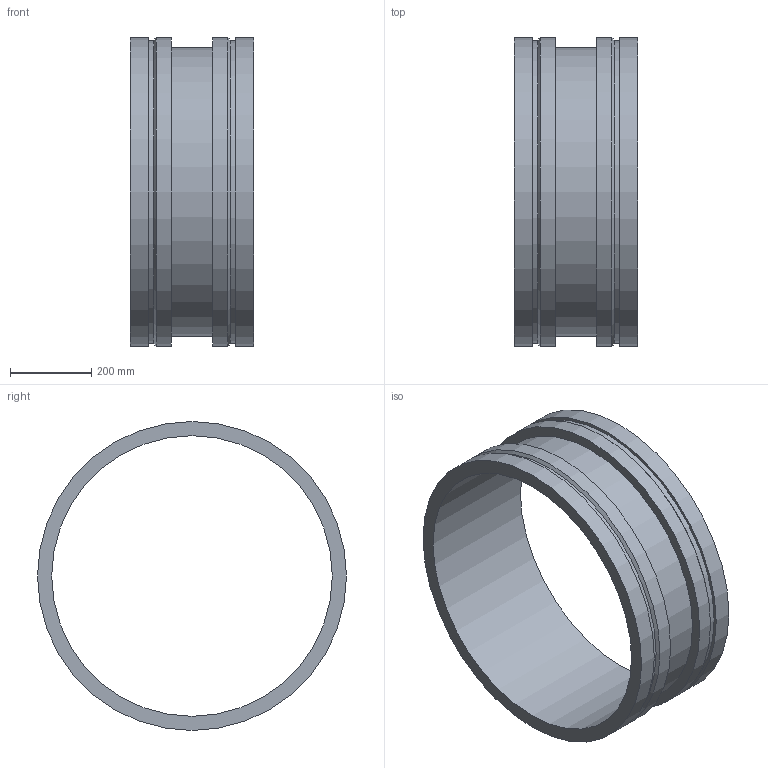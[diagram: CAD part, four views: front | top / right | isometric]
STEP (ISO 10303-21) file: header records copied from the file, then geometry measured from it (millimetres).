
FILE_DESCRIPTION(/* description */ ('VIC ADAPTER NIPPLE No W43 VR','CAx-IF Rec.Pracs.---Representation and Presentation of Product Manufacturing Information (PMI)---4.0---2014-10-13'),/* implementation_level */ '2;1');
FILE_NAME(/* name */ 'C:\Users\kkamble\AppData\Roaming\Autodesk\ApplicationPlugins\Back Up\Victaulic_Vic-Ring_Adapter Nipple_No W43 VR (AGR)\Victaulic_Vic-Ring_Adapter Nipple_No W43 VR (AGR)_28 (700).stp',/* time_stamp */ '2020-09-10T11:31:26+05:00',/* author */ ('cps_temp'),/* organization */ ('Victaulic'),/* preprocessor_version */ 'ST-DEVELOPER v17.2',/* originating_system */ 'Autodesk Inventor 2019',/* authorisation */ '');
FILE_SCHEMA (('AP242_MANAGED_MODEL_BASED_3D_ENGINEERING_MIM_LF { 1 0 10303 442 1 1 4 }'));
Length unit declared in the file: inch
Products named in the file (1): W43 VR-28.0
Bounding box: 304.8 x 762 x 762 mm (x, y, z)
Volume: 17772394.5 mm3; surface area: 1702148.4 mm2
Topology: 1 solids, 1 shells, 16 faces, 42 edges, 32 vertices
Faces by surface type: cylinder 8, plane 6, cone 2
Full cylindrical faces by diameter (mm): 692.15 x1, 711.2 x1, 747.522 x2, 762 x4
Entity records: 686 total; most frequent: DIRECTION 134, CARTESIAN_POINT 108, ORIENTED_EDGE 84, AXIS2_PLACEMENT_3D 62, EDGE_CURVE 42, CIRCLE 32, VERTEX_POINT 32, EDGE_LOOP 22
